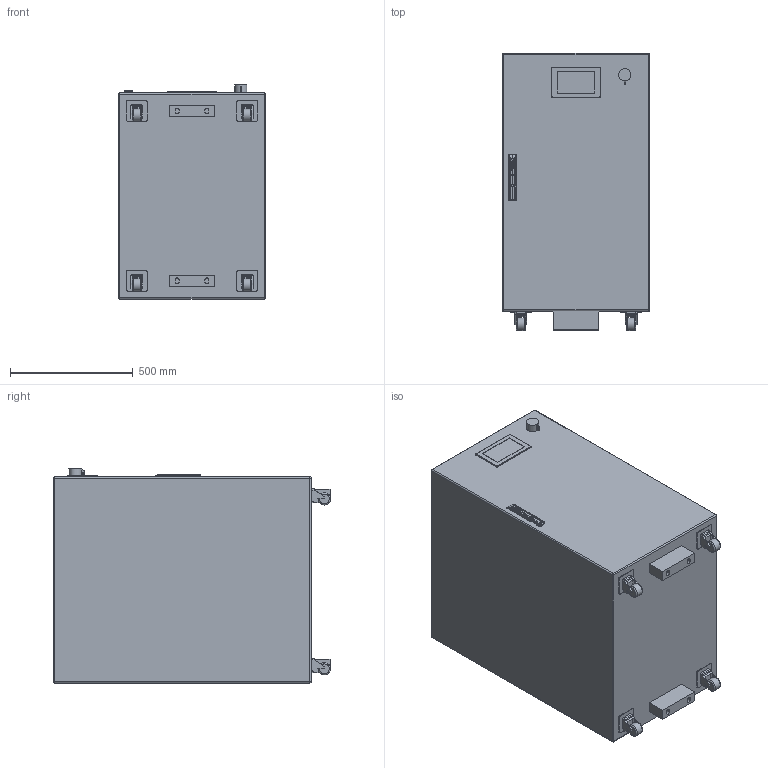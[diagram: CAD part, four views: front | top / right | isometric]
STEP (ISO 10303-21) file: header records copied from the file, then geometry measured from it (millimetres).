
FILE_DESCRIPTION(/* description */ (''),/* implementation_level */ '2;1');
FILE_NAME(/* name */ 'VEDAUPS P100.stp',/* time_stamp */ '2026-02-21T11:27:20+04:00',/* author */ ('Александр (огранич)'),/* organization */ (''),/* preprocessor_version */ 'ST-DEVELOPER v19.2',/* originating_system */ 'Autodesk Inventor 2024',/* authorisation */ '');
FILE_SCHEMA (('AUTOMOTIVE_DESIGN { 1 0 10303 214 3 1 1 }'));
Length unit declared in the file: millimetre
Products named in the file (11): VEDAUPS P100; Корпус; Колесо; Дисплей; Разъем; RAMBLOCK montata modificated_Default; inserto chiave per maniglia RAM BLOCK_AC00C389; Sealing ring; Ingranaggio per cariglione modificated_AC00C388; basetta esterna_AC00C506; maniglia RAM BLOCK modificated_AC00C505
Assembly tree (13 placements, depth 3):
  VEDAUPS P100
    Корпус
    Колесо  x4
    Дисплей
    Разъем
    RAMBLOCK montata modificated_Default
      inserto chiave per maniglia RAM BLOCK_AC00C389
      Sealing ring
      Ingranaggio per cariglione modificated_AC00C388
      basetta esterna_AC00C506
      maniglia RAM BLOCK modificated_AC00C505
Bounding box: 600 x 1130 x 873 mm (x, y, z)
Volume: 532287383.2 mm3; surface area: 4329252.6 mm2
Topology: 12 solids, 12 shells, 614 faces, 1613 edges, 1052 vertices
Faces by surface type: plane 371, cylinder 217, torus 11, sphere 8, bspline 6, cone 1
Full cylindrical faces by diameter (mm): 3 x1, 3.2 x1, 3.4 x3, 4.2 x4, 5 x1, 8 x1, 8.2 x3, 10 x5, 12.8 x1, 13.8 x2, 14.1 x1, 15.9 x1, 16.2 x1, 50 x4
Entity records: 15205 total; most frequent: CARTESIAN_POINT 2747, DIRECTION 2632, ORIENTED_EDGE 2468, EDGE_CURVE 1234, AXIS2_PLACEMENT_3D 913, LINE 806, VECTOR 806, VERTEX_POINT 806
